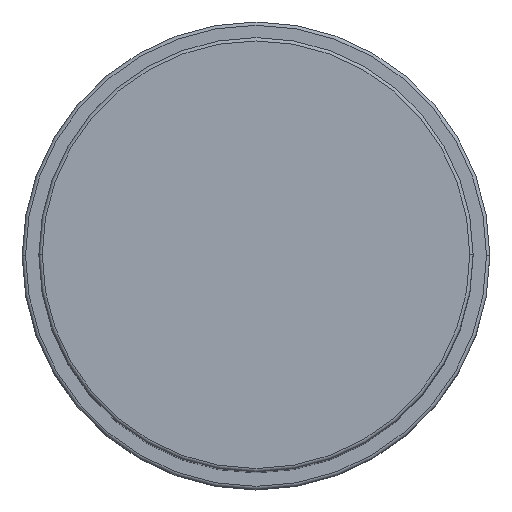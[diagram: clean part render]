
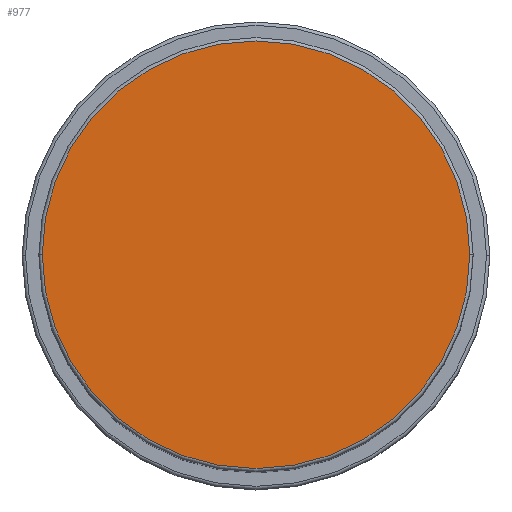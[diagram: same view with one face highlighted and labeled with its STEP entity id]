
A CAD part, top view. The second image highlights one B-rep face of the part: STEP entity #977.
In plain terms, the highlighted planar face has unit normal (0, 0, 1).
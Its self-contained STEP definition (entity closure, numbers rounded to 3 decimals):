
#56 = DIRECTION ( 'NONE',  ( 1., 0., 0. ) ) ;
#169 = ORIENTED_EDGE ( 'NONE', *, *, #957, .T. ) ;
#200 = DIRECTION ( 'NONE',  ( 1., 0., 0. ) ) ;
#211 = CARTESIAN_POINT ( 'NONE',  ( 0., 0., 122. ) ) ;
#285 = AXIS2_PLACEMENT_3D ( 'NONE', #1321, #1313, #56 ) ;
#493 = CIRCLE ( 'NONE', #981, 32. ) ;
#526 = EDGE_CURVE ( 'NONE', #1531, #1124, #1589, .T. ) ;
#528 = EDGE_LOOP ( 'NONE', ( #169, #748 ) ) ;
#533 = CARTESIAN_POINT ( 'NONE',  ( 0., 0., 122. ) ) ;
#667 = FACE_OUTER_BOUND ( 'NONE', #528, .T. ) ;
#748 = ORIENTED_EDGE ( 'NONE', *, *, #526, .T. ) ;
#953 = AXIS2_PLACEMENT_3D ( 'NONE', #533, #1770, #1214 ) ;
#957 = EDGE_CURVE ( 'NONE', #1124, #1531, #493, .T. ) ;
#977 = ADVANCED_FACE ( 'NONE', ( #667 ), #1327, .T. ) ;
#981 = AXIS2_PLACEMENT_3D ( 'NONE', #211, #1333, #200 ) ;
#1124 = VERTEX_POINT ( 'NONE', #1763 ) ;
#1214 = DIRECTION ( 'NONE',  ( 1., 0., 0. ) ) ;
#1313 = DIRECTION ( 'NONE',  ( 0., 0., 1. ) ) ;
#1321 = CARTESIAN_POINT ( 'NONE',  ( 0., 0., 122. ) ) ;
#1327 = PLANE ( 'NONE',  #285 ) ;
#1333 = DIRECTION ( 'NONE',  ( 0., 0., 1. ) ) ;
#1508 = CARTESIAN_POINT ( 'NONE',  ( -32., 0., 122. ) ) ;
#1531 = VERTEX_POINT ( 'NONE', #1508 ) ;
#1589 = CIRCLE ( 'NONE', #953, 32. ) ;
#1763 = CARTESIAN_POINT ( 'NONE',  ( 32., 0., 122. ) ) ;
#1770 = DIRECTION ( 'NONE',  ( 0., 0., 1. ) ) ;
